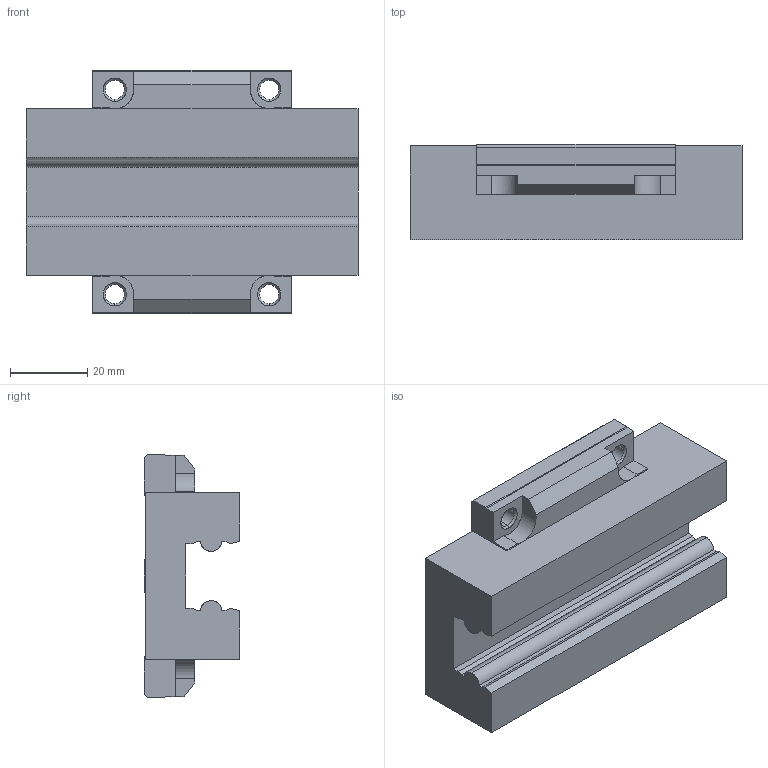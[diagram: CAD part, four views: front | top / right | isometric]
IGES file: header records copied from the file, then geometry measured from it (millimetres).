
Start section: SolidWorks IGES file using analytic representation for surfaces
Global section: file name: V:\webhosting\solidcomponents\www\company\out\15486719\FNS-2000\FNS-2000.igs; native system: SolidWorks 2010; preprocessor: SolidWorks 2010; author: CShared; date: 220519.021750; units: millimetre
Bounding box: 86 x 24.7 x 63 mm (x, y, z)
Surface area: 18928.2 mm2 (no closed solid volume)
Topology: 0 solids, 0 shells, 105 faces, 918 edges, 918 vertices
Faces by surface type: bspline 72, revolution 33
